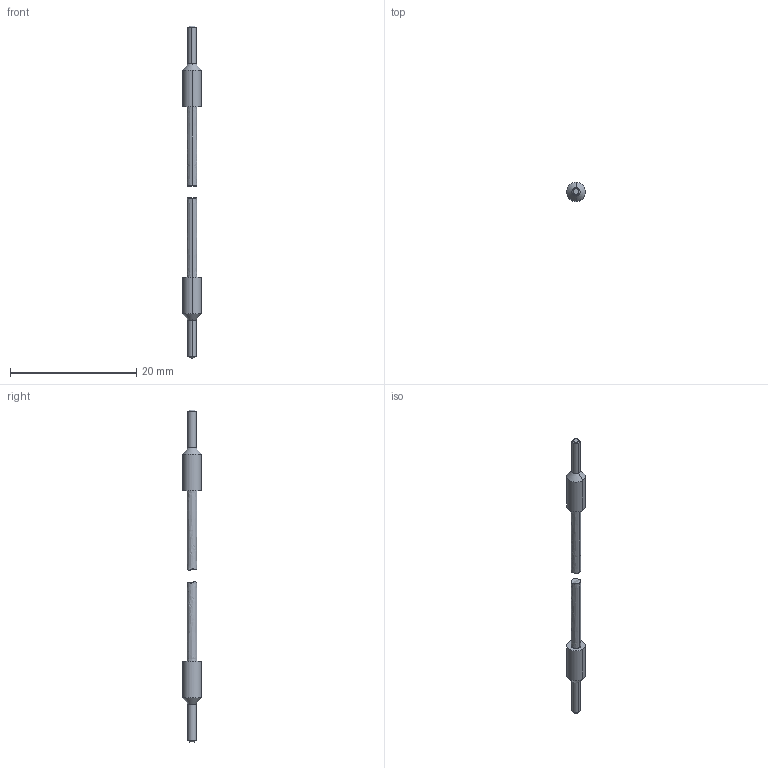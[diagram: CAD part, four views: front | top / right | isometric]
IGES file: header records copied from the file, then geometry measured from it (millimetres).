
Start section:  PTC IGES file: 24n978-en-g.igs
Global section: file name: 24n978-en-g.igs; native system: Creo Parametric by PTC Inc.; preprocessor: 2021072; author: qtmwp1; organization: Unknown; date: 20220214.113550; units: inch
Bounding box: 3 x 3 x 52.53 mm (x, y, z)
Surface area: 318.9 mm2 (no closed solid volume)
Topology: 0 solids, 0 shells, 26 faces, 92 edges, 92 vertices
Faces by surface type: revolution 20, bspline 4, extrusion 2
